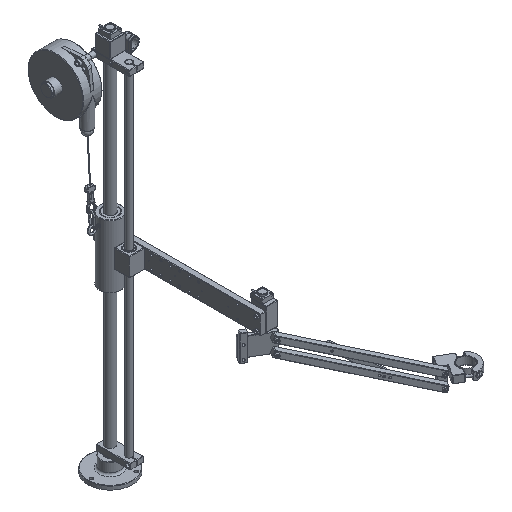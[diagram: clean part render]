
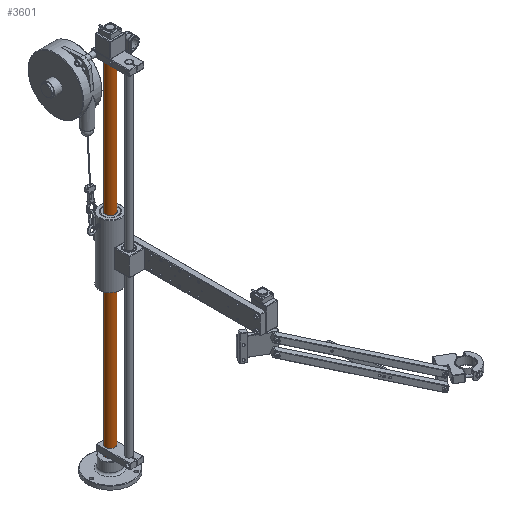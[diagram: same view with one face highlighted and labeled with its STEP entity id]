
A CAD part, isometric view. The second image highlights one B-rep face of the part: STEP entity #3601.
In plain terms, the highlighted cylindrical face has radius 12.5 mm (diameter 25 mm), a full revolution.
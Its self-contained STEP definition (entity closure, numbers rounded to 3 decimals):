
#3601 = ADVANCED_FACE( '', ( #7074, #7075 ), #7076, .T. );
#7074 = FACE_OUTER_BOUND( '', #11354, .T. );
#7075 = FACE_OUTER_BOUND( '', #11355, .T. );
#7076 = CYLINDRICAL_SURFACE( '', #11356, 12.5 );
#11354 = EDGE_LOOP( '', ( #19072 ) );
#11355 = EDGE_LOOP( '', ( #19073 ) );
#11356 = AXIS2_PLACEMENT_3D( '', #19074, #19075, #19076 );
#19072 = ORIENTED_EDGE( '', *, *, #23964, .T. );
#19073 = ORIENTED_EDGE( '', *, *, #24232, .F. );
#19074 = CARTESIAN_POINT( '', ( 0., 0., 957. ) );
#19075 = DIRECTION( '', ( 0., 0., 1. ) );
#19076 = DIRECTION( '', ( -1., 0., 0. ) );
#23964 = EDGE_CURVE( '', #31704, #31704, #31705, .T. );
#24232 = EDGE_CURVE( '', #32027, #32027, #32028, .T. );
#31704 = VERTEX_POINT( '', #39749 );
#31705 = CIRCLE( '', #39750, 12.5 );
#32027 = VERTEX_POINT( '', #40276 );
#32028 = CIRCLE( '', #40277, 12.5 );
#39749 = CARTESIAN_POINT( '', ( 12.5, 0., 957. ) );
#39750 = AXIS2_PLACEMENT_3D( '', #45048, #45049, #45050 );
#40276 = CARTESIAN_POINT( '', ( 12.5, 0., 0. ) );
#40277 = AXIS2_PLACEMENT_3D( '', #45271, #45272, #45273 );
#45048 = CARTESIAN_POINT( '', ( 0., 0., 957. ) );
#45049 = DIRECTION( '', ( 0., 0., -1. ) );
#45050 = DIRECTION( '', ( 1., 0., 0. ) );
#45271 = CARTESIAN_POINT( '', ( 0., 0., 0. ) );
#45272 = DIRECTION( '', ( 0., 0., -1. ) );
#45273 = DIRECTION( '', ( 1., 0., 0. ) );
